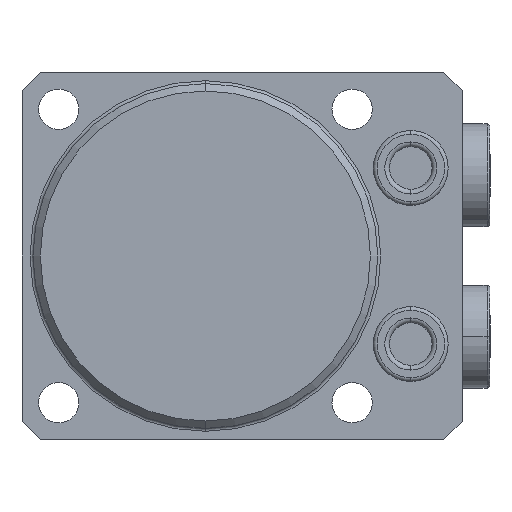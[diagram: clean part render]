
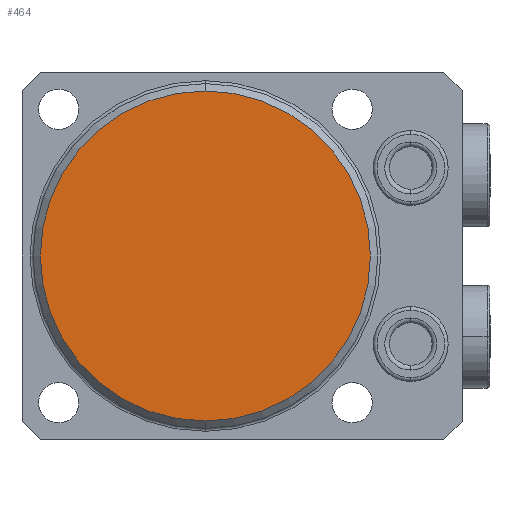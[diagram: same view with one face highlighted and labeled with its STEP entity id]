
A CAD part, front view. The second image highlights one B-rep face of the part: STEP entity #464.
In plain terms, the highlighted planar face has unit normal (0, -1, 0) as drawn and (0, 1, 0) by its records, which use the part's own axes.
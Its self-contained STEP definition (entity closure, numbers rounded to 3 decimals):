
#210=PLANE('',#4700);
#464=ADVANCED_FACE('',(#840),#210,.T.);
#840=FACE_OUTER_BOUND('',#1093,.F.);
#1093=EDGE_LOOP('',(#1952,#1953));
#1413=CIRCLE('',#4661,22.5);
#1434=CIRCLE('',#4699,22.5);
#1952=ORIENTED_EDGE('',*,*,#3550,.T.);
#1953=ORIENTED_EDGE('',*,*,#3452,.T.);
#3012=VERTEX_POINT('',#6872);
#3013=VERTEX_POINT('',#6873);
#3452=EDGE_CURVE('',#3012,#3013,#1413,.T.);
#3550=EDGE_CURVE('',#3013,#3012,#1434,.T.);
#4661=AXIS2_PLACEMENT_3D('',#6871,#5399,#5400);
#4699=AXIS2_PLACEMENT_3D('',#7150,#5525,#5526);
#4700=AXIS2_PLACEMENT_3D('',#7151,#5527,#5528);
#5399=DIRECTION('',(0.,-1.,0.));
#5400=DIRECTION('',(0.,0.,1.));
#5525=DIRECTION('',(0.,-1.,0.));
#5526=DIRECTION('',(0.,0.,1.));
#5527=DIRECTION('',(0.,1.,0.));
#5528=DIRECTION('',(0.,0.,1.));
#6871=CARTESIAN_POINT('',(0.,-39.5,0.));
#6872=CARTESIAN_POINT('',(0.,-39.5,-22.5));
#6873=CARTESIAN_POINT('',(0.,-39.5,22.5));
#7150=CARTESIAN_POINT('',(0.,-39.5,0.));
#7151=CARTESIAN_POINT('',(0.,-39.5,0.));
